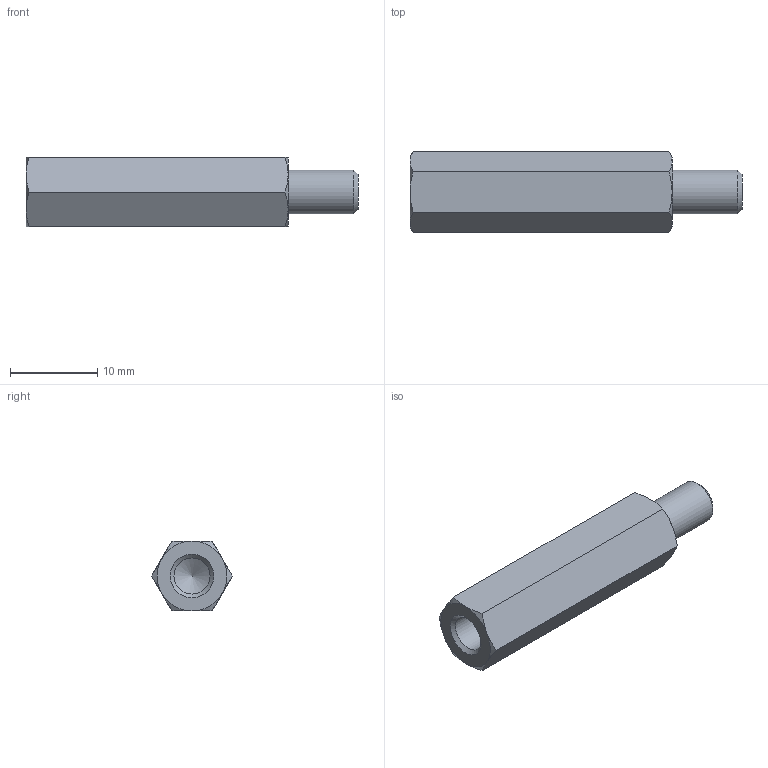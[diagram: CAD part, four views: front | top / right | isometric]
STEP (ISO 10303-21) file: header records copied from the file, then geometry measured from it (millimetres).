
FILE_DESCRIPTION( ( 'STEP AP203' ), '1' );
FILE_NAME( 'C:/Temp/Ganter_Step_05_03_2020/data/3_2/gn6220/gn6220_ni/Stainless Steel-Spacer GN 6220-NI-M5-30-B.stp', '2020-03-13T05:43:13', ( 'License CC BY-ND 4.0' ), ( 'CADENAS' ), ' ', 'PARTsolutions', ' ' );
FILE_SCHEMA( ( 'CONFIG_CONTROL_DESIGN' ) );
Length unit declared in the file: millimetre
Products named in the file (1): _Stainless Steel-Spacer GN 6220-NI-M5-30-B
Bounding box: 38 x 9.24 x 8 mm (x, y, z)
Volume: 1619.5 mm3; surface area: 1241.5 mm2
Topology: 1 solids, 1 shells, 26 faces, 55 edges, 32 vertices
Faces by surface type: cone 15, plane 9, cylinder 2
Full cylindrical faces by diameter (mm): 4.134 x1, 5 x1
Entity records: 746 total; most frequent: CARTESIAN_POINT 210, DIRECTION 96, ORIENTED_EDGE 96, EDGE_CURVE 48, AXIS2_PLACEMENT_3D 45, EDGE_LOOP 32, VERTEX_POINT 31, FACE_OUTER_BOUND 28
